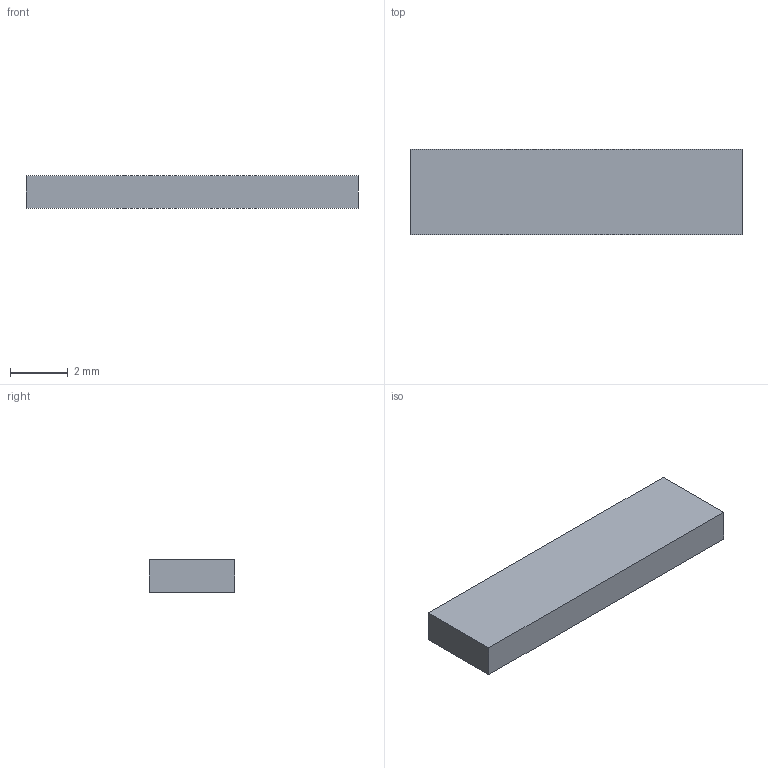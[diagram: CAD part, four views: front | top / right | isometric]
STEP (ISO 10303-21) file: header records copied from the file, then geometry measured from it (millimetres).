
FILE_DESCRIPTION(('Open CASCADE Model'),'2;1');
FILE_NAME('Open CASCADE Shape Model','2026-10-07T08:13:16',('Author'),( 'Open CASCADE'),'Open CASCADE STEP processor 7.9','Open CASCADE 7.9' ,'Unknown');
FILE_SCHEMA(('AUTOMOTIVE_DESIGN { 1 0 10303 214 1 1 1 1 }'));
Length unit declared in the file: millimetre
Products named in the file (1): Open CASCADE STEP translator 7.9 3
Bounding box: 11.52 x 2.97 x 1.14 mm (x, y, z)
Volume: 39 mm3; surface area: 101.5 mm2
Topology: 1 solids, 1 shells, 6 faces, 12 edges, 8 vertices
Faces by surface type: plane 6
Entity records: 322 total; most frequent: CARTESIAN_POINT 51, DIRECTION 50, LINE 36, VECTOR 36, ORIENTED_EDGE 24, PCURVE 24, DEFINITIONAL_REPRESENTATION 24, EDGE_CURVE 12
